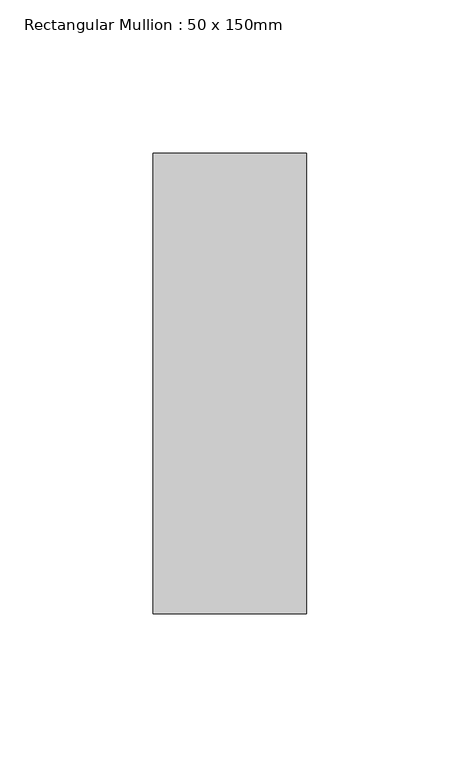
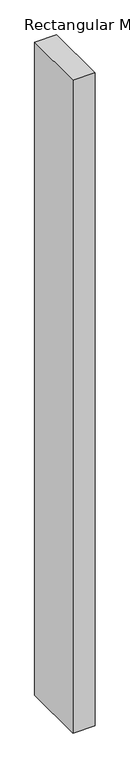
"""IFC4 building model written with IfcOpenShell, lengths in millimetres: member geometry, Rectangular Mullion : 50 x 150mm."""

import ifcopenshell
import ifcopenshell.guid

model = None  # the IFC model being written
_history = None  # IfcOwnerHistory: only IFC2X3 demands one
_inside = {}  # id of a spatial element -> (the spatial element, [elements in it])
_under = {}  # id of a project, library or spatial element -> (it, [spatial elements below it])
_declared = {}  # id of a project -> (the project, [libraries it declares])
_typed = {}  # id of a type object -> (the type object, [elements of that type])
_made_of = {}  # id of a material, layer set ... -> (it, [elements and type objects made of it])


def new_model(schema):
    """Start an empty IFC model of exactly this schema.

    Asked for "IFC4X3", IfcOpenShell would pick the latest addendum, in which some entities
    have other attributes; the version numbers below select the first issue.
    IFC2X3 requires an IfcOwnerHistory on every rooted entity: one is made here for all.
    """
    global model, _history
    if schema == "IFC4X3":
        model = ifcopenshell.file(schema_version=(4, 3, 0, 0))
    else:
        model = ifcopenshell.file(schema=schema)
    _inside.clear()
    _under.clear()
    _declared.clear()
    _typed.clear()
    _made_of.clear()
    _history = None
    if model.schema == "IFC2X3":
        org = make("IfcOrganization", Name="unknown")
        user = make(
            "IfcPersonAndOrganization",
            ThePerson=make("IfcPerson", FamilyName="unknown"),
            TheOrganization=org,
        )
        app = make(
            "IfcApplication",
            ApplicationDeveloper=org,
            Version="unknown",
            ApplicationFullName="unknown",
            ApplicationIdentifier="unknown",
        )
        _history = make(
            "IfcOwnerHistory",
            OwningUser=user,
            OwningApplication=app,
            ChangeAction="ADDED",
            CreationDate=0,
        )
    return model


def make(cls, **values):
    """One entity of the class cls with the attributes given. An attribute that is None is left unset."""
    return model.create_entity(
        cls, **{name: value for name, value in values.items() if value is not None}
    )


def rooted(cls, **values):
    """An entity with a GlobalId (a new one), such as an element, a storey or a relation."""
    return make(cls, GlobalId=ifcopenshell.guid.new(), OwnerHistory=_history, **values)


def si_unit(unit_type, name, prefix=None):
    """IfcSIUnit, for example si_unit("LENGTHUNIT", "METRE", prefix="MILLI")."""
    return make("IfcSIUnit", UnitType=unit_type, Prefix=prefix, Name=name)


def assignment(units):
    """IfcUnitAssignment: the units of a project."""
    return None if units is None else make("IfcUnitAssignment", Units=units)


def point(xyz):
    """IfcCartesianPoint."""
    return None if xyz is None else make("IfcCartesianPoint", Coordinates=xyz)


def direction(xyz):
    """IfcDirection."""
    return None if xyz is None else make("IfcDirection", DirectionRatios=xyz)


def frame(location, z_axis=None, x_axis=None):
    """IfcAxis2Placement3D, a coordinate frame: its origin and axes. An axis left out is left unset."""
    return make(
        "IfcAxis2Placement3D",
        Location=point(location),
        Axis=direction(z_axis),
        RefDirection=direction(x_axis),
    )


def origin():
    """The frame at (0, 0, 0) with its axes left unset."""
    return frame((0.0, 0.0, 0.0))


def place(relative_to, where):
    """IfcLocalPlacement: puts the frame where relative to a parent placement (None: the world)."""
    return make(
        "IfcLocalPlacement", PlacementRelTo=relative_to, RelativePlacement=where
    )


def context(
    kind, dimensions, precision=None, world=None, true_north=None, identifier=None
):
    """IfcGeometricRepresentationContext, for example the 3D "Model" context."""
    return make(
        "IfcGeometricRepresentationContext",
        ContextIdentifier=identifier,
        ContextType=kind,
        CoordinateSpaceDimension=dimensions,
        Precision=precision,
        WorldCoordinateSystem=world,
        TrueNorth=true_north,
    )


def project(units=None, contexts=None):
    """IfcProject with its units and contexts."""
    return rooted(
        "IfcProject",
        Name="project",
        RepresentationContexts=contexts,
        UnitsInContext=assignment(units),
    )


def spatial(cls, under=None, at=None, **own):
    """A site, building, storey or space (cls), placed at a placement, below another one or the project."""
    s = rooted(cls, ObjectPlacement=at, **own)
    if under is not None:
        _under.setdefault(under.id(), (under, []))[1].append(s)
    return s


def polyline(points):
    """IfcPolyline through the points."""
    return make("IfcPolyline", Points=[point(p) for p in points])


def outline(outer, holes=None, kind="AREA"):
    """IfcArbitraryClosedProfileDef: a profile drawn as a closed curve; with holes, ...WithVoids."""
    if holes is None:
        return make("IfcArbitraryClosedProfileDef", ProfileType=kind, OuterCurve=outer)
    return make(
        "IfcArbitraryProfileDefWithVoids",
        ProfileType=kind,
        OuterCurve=outer,
        InnerCurves=holes,
    )


def extrude(swept, where, along, depth):
    """IfcExtrudedAreaSolid: the profile swept, set in the frame where, extruded along a direction by depth."""
    return make(
        "IfcExtrudedAreaSolid",
        SweptArea=swept,
        Position=where,
        ExtrudedDirection=direction(along),
        Depth=depth,
    )


def shape(context_of_items, identifier, shape_type, items):
    """IfcShapeRepresentation: the items that make up one representation, for example the "Body"."""
    return make(
        "IfcShapeRepresentation",
        ContextOfItems=context_of_items,
        RepresentationIdentifier=identifier,
        RepresentationType=shape_type,
        Items=items,
    )


def source(mapping_origin, context_of_items, identifier, shape_type, items):
    """IfcRepresentationMap: a shape defined once, which mapped items show again and again."""
    return make(
        "IfcRepresentationMap",
        MappingOrigin=mapping_origin,
        MappedRepresentation=shape(context_of_items, identifier, shape_type, items),
    )


def transform(
    local_origin,
    x_axis=None,
    y_axis=None,
    z_axis=None,
    scale=None,
    scale2=None,
    scale3=None,
    uniform=True,
):
    """IfcCartesianTransformationOperator3D, or its non-uniform kind. x_axis, y_axis, z_axis: its Axis1, 2, 3."""
    if uniform:
        return make(
            "IfcCartesianTransformationOperator3D",
            Axis1=direction(x_axis),
            Axis2=direction(y_axis),
            LocalOrigin=point(local_origin),
            Scale=scale,
            Axis3=direction(z_axis),
        )
    return make(
        "IfcCartesianTransformationOperator3DnonUniform",
        Axis1=direction(x_axis),
        Axis2=direction(y_axis),
        LocalOrigin=point(local_origin),
        Scale=scale,
        Axis3=direction(z_axis),
        Scale2=scale2,
        Scale3=scale3,
    )


def mapped(mapping_source, mapping_target):
    """IfcMappedItem: shows the shape of a source again, moved by a transform."""
    return make(
        "IfcMappedItem", MappingSource=mapping_source, MappingTarget=mapping_target
    )


def made_of(thing, what):
    """Note that an element or type object is made of a material, layer set ...; save() writes the relation."""
    if what is not None:
        _made_of.setdefault(what.id(), (what, []))[1].append(thing)
    return thing


def element(
    cls,
    number,
    at=None,
    inside=None,
    cuts=None,
    type_object=None,
    material=None,
    context=None,
    identifier="Body",
    shape_type=None,
    held_by="IfcProductDefinitionShape",
    body=None,
    shapes=None,
    **own,
):
    """One element of the class cls, such as IfcWall. Its Tag is "e" and its number.

    at: its placement. inside: the storey or other place that contains it. cuts: it is an
    opening in that element (IfcRelVoidsElement). A single representation is given by context,
    identifier, shape_type and body (its items); several are given by shapes. held_by: the class
    of the entity that holds the representations. save() writes the other relations.
    """
    e = rooted(cls, Tag="e%d" % number, ObjectPlacement=at, **own)
    if body is not None:
        shapes = [shape(context, identifier, shape_type, body)]
    if shapes is not None:
        e.Representation = make(held_by, Representations=shapes)
    if inside is not None:
        _inside.setdefault(inside.id(), (inside, []))[1].append(e)
    if cuts is not None:
        rooted(
            "IfcRelVoidsElement", RelatingBuildingElement=cuts, RelatedOpeningElement=e
        )
    if type_object is not None:
        _typed.setdefault(type_object.id(), (type_object, []))[1].append(e)
    return made_of(e, material)


def aggregate(whole, parts):
    """IfcRelAggregates: a whole, such as a stair, and the parts it consists of."""
    return rooted("IfcRelAggregates", RelatingObject=whole, RelatedObjects=parts)


def save(model, path):
    """Write the relations noted so far, then the file.

    IfcRelAggregates (storeys below a building ...), IfcRelContainedInSpatialStructure (elements
    in a storey), IfcRelDefinesByType, IfcRelAssociatesMaterial and IfcRelDeclares: one each for
    every whole, place, type object, material and project.
    """
    for whole, parts in _under.values():
        aggregate(whole, parts)
    for where, things in _inside.values():
        rooted(
            "IfcRelContainedInSpatialStructure",
            RelatedElements=things,
            RelatingStructure=where,
        )
    for kind, things in _typed.values():
        rooted("IfcRelDefinesByType", RelatedObjects=things, RelatingType=kind)
    for what, things in _made_of.values():
        rooted("IfcRelAssociatesMaterial", RelatedObjects=things, RelatingMaterial=what)
    for by, libraries in _declared.values():
        rooted("IfcRelDeclares", RelatingContext=by, RelatedDefinitions=libraries)
    model.write(path)


def rectangular_mullion_50_x_150mm_83d39878(model_context):
    return source(origin(), model_context, "Body", "SweptSolid", [
        extrude(outline(polyline([(0.0, 75.0), (0.0, -75.0), (-50.0, -75.0), (-50.0, 75.0), (0.0, 75.0)])), frame((0.0, 0.0, -1563.1918906), z_axis=(0.0, 0.0, 1.0), x_axis=(1.0, 0.0, 0.0)), (0.0, 0.0, 1.0), 1563.1918906),
    ])


if __name__ == "__main__":
    model = new_model("IFC4")
    model_context = context("Model", 3, world=origin())
    ifc_project = project(units=[si_unit("LENGTHUNIT", "METRE", prefix="MILLI")], contexts=[model_context])
    site = spatial("IfcSite", under=ifc_project)
    building = spatial("IfcBuilding", under=site)
    placement = place(None, origin())
    rectangular_mullion_50_x_150mm_shape = rectangular_mullion_50_x_150mm_83d39878(model_context)
    element("IfcMember", 1, ObjectType="Rectangular Mullion : 50 x 150mm", at=placement, inside=building, context=model_context, shape_type="MappedRepresentation", body=[
        mapped(rectangular_mullion_50_x_150mm_shape, transform((0.0, 0.0, 0.0), x_axis=(1.0, 0.0, 0.0), y_axis=(0.0, 1.0, 0.0), z_axis=(0.0, 0.0, 1.0))),
    ])
    save(model, "model.ifc")
